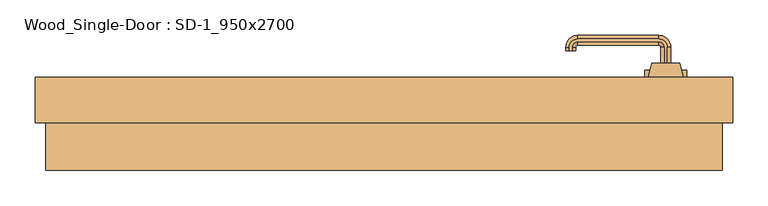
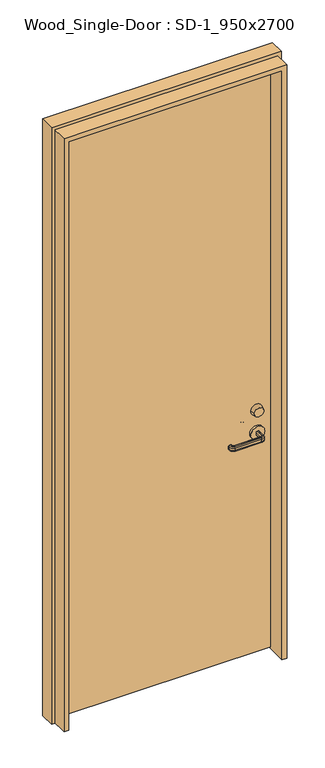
"""IFC4 building model written with IfcOpenShell, lengths in millimetres: door geometry, Wood_Single-Door : SD-1_950x2700."""

from ifc_helpers import new_model, si_unit, point, frame, frame_2d, origin, place, context, project, spatial, polyline, circle_curve, ellipse_curve, trimmed, segment, composite_curve, outline, extrude, source, transform, mapped, element, save
from ifc_brep_helpers import plane_surface, cylinder_surface, revolved_surface, advanced_brep


def wood_single_door_sd_1_950x2700_4097bdad(model_context):
    return source(origin(), model_context, "Body", "SolidModel", [
        advanced_brep(
        [(420.0, 86.0, 1106.3812925), (380.0, 86.0, 1106.3812925), (425.0, 66.0, 1106.3812925), (375.0, 66.0, 1106.3812925)],
        [
            (0, 1, circle_curve(frame((400.0, 86.0, 1106.3812925), z_axis=(0.0, 1.0, 0.0), x_axis=(-1.0, 0.0, 0.0)), 20.0)),
            (1, 0, circle_curve(frame((400.0, 86.0, 1106.3812925), z_axis=(0.0, 1.0, 0.0), x_axis=(1.0, 0.0, 0.0)), 20.0)),
            (2, 3, circle_curve(frame((400.0, 66.0, 1106.3812925), z_axis=(0.0, -1.0, 0.0), x_axis=(1.0, 0.0, 0.0)), 25.0)),
            (3, 2, circle_curve(frame((400.0, 66.0, 1106.3812925), z_axis=(0.0, -1.0, 0.0), x_axis=(-1.0, 0.0, 0.0)), 25.0)),
            (3, 1),
            (0, 2),
        ],
        [
            plane_surface(frame((400.0, 86.0, 1106.3812925), z_axis=(0.0, 1.0, 0.0), x_axis=(0.0, 0.0, 1.0))),
            plane_surface(frame((400.0, 66.0, 1106.3812925), z_axis=(0.0, -1.0, 0.0), x_axis=(0.0, 0.0, 1.0))),
            revolved_surface(polyline([(380.0, 86.0, 1106.3812925), (375.0, 66.0, 1106.3812925)]), (400.0, 166.0, 1106.3812925), (0.0, -1.0, 0.0)),
            revolved_surface(polyline([(420.0, 86.0, 1106.3812925), (425.0, 66.0, 1106.3812925)]), (400.0, 166.0, 1106.3812925), (0.0, -1.0, 0.0)),
        ],
        [
            (0, [[1, 2]]),
            (1, [[3, 4]]),
            (2, [[5, -1, 6, -4]]),
            (3, [[-6, -2, -5, -3]]),
        ],
    ),
        advanced_brep(
        [(420.0, 1.0, 1106.3812925), (380.0, 1.0, 1106.3812925), (425.0, 21.0, 1106.3812925), (375.0, 21.0, 1106.3812925)],
        [
            (0, 1, circle_curve(frame((400.0, 1.0, 1106.3812925), z_axis=(0.0, -1.0, 0.0), x_axis=(-1.0, 0.0, 0.0)), 20.0)),
            (1, 0, circle_curve(frame((400.0, 1.0, 1106.3812925), z_axis=(0.0, -1.0, 0.0), x_axis=(1.0, 0.0, 0.0)), 20.0)),
            (2, 3, circle_curve(frame((400.0, 21.0, 1106.3812925), z_axis=(0.0, 1.0, 0.0), x_axis=(1.0, 0.0, 0.0)), 25.0)),
            (3, 2, circle_curve(frame((400.0, 21.0, 1106.3812925), z_axis=(0.0, 1.0, 0.0), x_axis=(-1.0, 0.0, 0.0)), 25.0)),
            (2, 0),
            (1, 3),
        ],
        [
            plane_surface(frame((400.0, 1.0, 1106.3812925), z_axis=(0.0, -1.0, 0.0), x_axis=(0.0, 0.0, -1.0))),
            plane_surface(frame((400.0, 21.0, 1106.3812925), z_axis=(0.0, 1.0, 0.0), x_axis=(0.0, 0.0, -1.0))),
            revolved_surface(polyline([(420.0, 1.0, 1106.3812925), (425.0, 21.0, 1106.3812925)]), (400.0, -79.0, 1106.3812925), (0.0, 1.0, 0.0)),
            revolved_surface(polyline([(380.0, 1.0, 1106.3812925), (375.0, 21.0, 1106.3812925)]), (400.0, -79.0, 1106.3812925), (0.0, 1.0, 0.0)),
        ],
        [
            (0, [[1, 2]]),
            (1, [[3, 4]]),
            (2, [[5, -2, 6, -3]]),
            (3, [[-6, -1, -5, -4]]),
        ],
    ),
        advanced_brep(
        [(402.0, 76.0, 1015.0), (398.0, 76.0, 1015.0), (393.0, 76.0, 1010.0), (393.0, 76.0, 1000.0477623), (398.0, 76.0, 995.0477623), (402.0, 76.0, 995.0477623), (407.0, 76.0, 1000.0477623), (407.0, 76.0, 1010.0), (407.0, 108.5, 1010.0), (402.0, 108.5, 1015.0), (407.0, 108.5, 1000.0477623), (402.0, 108.5, 995.0477623), (398.0, 108.5, 995.0477623), (390.0, 116.5, 995.0477623), (275.0, 116.5, 995.0477623), (267.0, 108.5, 995.0477623), (267.0, 103.5, 995.0477623), (263.0, 103.5, 995.0477623), (263.0, 108.5, 995.0477623), (275.0, 120.5, 995.0477623), (390.0, 120.5, 995.0477623), (393.0, 108.5, 1000.0477623), (393.0, 108.5, 1010.0), (398.0, 108.5, 1015.0), (390.0, 120.5, 1015.0), (275.0, 120.5, 1015.0), (263.0, 108.5, 1015.0), (263.0, 103.5, 1015.0), (267.0, 103.5, 1015.0), (267.0, 108.5, 1015.0), (275.0, 116.5, 1015.0), (390.0, 116.5, 1015.0), (390.0, 125.5, 1010.0), (390.0, 125.5, 1000.0477623), (390.0, 111.5, 1000.0477623), (390.0, 111.5, 1010.0), (275.0, 125.5, 1010.0), (275.0, 125.5, 1000.0477623), (275.0, 111.5, 1000.0477623), (275.0, 111.5, 1010.0), (258.0, 108.5, 1010.0), (258.0, 108.5, 1000.0477623), (272.0, 108.5, 1000.0477623), (272.0, 108.5, 1010.0), (258.0, 103.5, 1010.0), (258.0, 103.5, 1000.0477623), (272.0, 103.5, 1000.0477623), (272.0, 103.5, 1010.0)],
        [
            (0, 1),
            (1, 2, circle_curve(frame((398.0, 76.0, 1010.0), z_axis=(0.0, -1.0, 0.0), x_axis=(1.0, 0.0, 0.0)), 5.0)),
            (2, 3),
            (3, 4, circle_curve(frame((398.0, 76.0, 1000.0477623), z_axis=(0.0, -1.0, 0.0), x_axis=(1.0, 0.0, 0.0)), 5.0)),
            (4, 5),
            (5, 6, circle_curve(frame((402.0, 76.0, 1000.0477623), z_axis=(0.0, -1.0, 0.0), x_axis=(1.0, 0.0, 0.0)), 5.0)),
            (6, 7),
            (7, 0, circle_curve(frame((402.0, 76.0, 1010.0), z_axis=(0.0, -1.0, 0.0), x_axis=(1.0, 0.0, 0.0)), 5.0)),
            (7, 8),
            (8, 9, circle_curve(frame((402.0, 108.5, 1010.0), z_axis=(0.0, -1.0, 0.0), x_axis=(1.0, 0.0, 0.0)), 5.0)),
            (9, 0),
            (6, 10),
            (10, 8),
            (5, 11),
            (11, 10, circle_curve(frame((402.0, 108.5, 1000.0477623), z_axis=(0.0, -1.0, 0.0), x_axis=(1.0, 0.0, 0.0)), 5.0)),
            (4, 12),
            (12, 13, circle_curve(frame((390.0, 108.5, 995.0477623), z_axis=(0.0, 0.0, 1.0), x_axis=(1.0, 0.0, 0.0)), 8.0)),
            (13, 14),
            (14, 15, circle_curve(frame((275.0, 108.5, 995.0477623), z_axis=(0.0, 0.0, 1.0), x_axis=(0.0, 1.0, 0.0)), 8.0)),
            (15, 16),
            (16, 17),
            (17, 18),
            (18, 19, circle_curve(frame((275.0, 108.5, 995.0477623), z_axis=(0.0, 0.0, -1.0), x_axis=(0.0, 1.0, 0.0)), 12.0)),
            (19, 20),
            (20, 11, circle_curve(frame((390.0, 108.5, 995.0477623), z_axis=(0.0, 0.0, -1.0), x_axis=(1.0, 0.0, 0.0)), 12.0)),
            (3, 21),
            (21, 12, circle_curve(frame((398.0, 108.5, 1000.0477623), z_axis=(0.0, -1.0, 0.0), x_axis=(1.0, 0.0, 0.0)), 5.0)),
            (2, 22),
            (22, 21),
            (1, 23),
            (23, 22, circle_curve(frame((398.0, 108.5, 1010.0), z_axis=(0.0, -1.0, 0.0), x_axis=(1.0, 0.0, 0.0)), 5.0)),
            (9, 24, circle_curve(frame((390.0, 108.5, 1015.0), z_axis=(0.0, 0.0, 1.0), x_axis=(1.0, 0.0, 0.0)), 12.0)),
            (24, 25),
            (25, 26, circle_curve(frame((275.0, 108.5, 1015.0), z_axis=(0.0, 0.0, 1.0), x_axis=(0.0, 1.0, 0.0)), 12.0)),
            (26, 27),
            (27, 28),
            (28, 29),
            (29, 30, circle_curve(frame((275.0, 108.5, 1015.0), z_axis=(0.0, 0.0, -1.0), x_axis=(0.0, 1.0, 0.0)), 8.0)),
            (30, 31),
            (31, 23, circle_curve(frame((390.0, 108.5, 1015.0), z_axis=(0.0, 0.0, -1.0), x_axis=(1.0, 0.0, 0.0)), 8.0)),
            (32, 24, circle_curve(frame((390.0, 120.5, 1010.0), z_axis=(1.0, 0.0, 0.0), x_axis=(0.0, 1.0, 0.0)), 5.0)),
            (8, 32, circle_curve(frame((390.0, 108.5, 1010.0), z_axis=(0.0, 0.0, 1.0), x_axis=(1.0, 0.0, 0.0)), 17.0)),
            (33, 32),
            (10, 33, circle_curve(frame((390.0, 108.5, 1000.0477623), z_axis=(0.0, 0.0, 1.0), x_axis=(1.0, 0.0, 0.0)), 17.0)),
            (20, 33, circle_curve(frame((390.0, 120.5, 1000.0477623), z_axis=(1.0, 0.0, 0.0), x_axis=(0.0, 1.0, 0.0)), 5.0)),
            (34, 13, circle_curve(frame((390.0, 116.5, 1000.0477623), z_axis=(1.0, 0.0, 0.0), x_axis=(0.0, 1.0, 0.0)), 5.0)),
            (21, 34, circle_curve(frame((390.0, 108.5, 1000.0477623), z_axis=(0.0, 0.0, 1.0), x_axis=(1.0, 0.0, 0.0)), 3.0)),
            (35, 34),
            (22, 35, circle_curve(frame((390.0, 108.5, 1010.0), z_axis=(0.0, 0.0, 1.0), x_axis=(1.0, 0.0, 0.0)), 3.0)),
            (31, 35, circle_curve(frame((390.0, 116.5, 1010.0), z_axis=(1.0, 0.0, 0.0), x_axis=(0.0, 1.0, 0.0)), 5.0)),
            (32, 36),
            (36, 25, circle_curve(frame((275.0, 120.5, 1010.0), z_axis=(1.0, 0.0, 0.0), x_axis=(0.0, 1.0, 0.0)), 5.0)),
            (33, 37),
            (37, 36),
            (19, 37, circle_curve(frame((275.0, 120.5, 1000.0477623), z_axis=(1.0, 0.0, 0.0), x_axis=(0.0, 1.0, 0.0)), 5.0)),
            (34, 38),
            (38, 14, circle_curve(frame((275.0, 116.5, 1000.0477623), z_axis=(1.0, 0.0, 0.0), x_axis=(0.0, 1.0, 0.0)), 5.0)),
            (35, 39),
            (39, 38),
            (30, 39, circle_curve(frame((275.0, 116.5, 1010.0), z_axis=(1.0, 0.0, 0.0), x_axis=(0.0, 1.0, 0.0)), 5.0)),
            (40, 26, circle_curve(frame((263.0, 108.5, 1010.0), z_axis=(0.0, 1.0, 0.0), x_axis=(-1.0, 0.0, 0.0)), 5.0)),
            (36, 40, circle_curve(frame((275.0, 108.5, 1010.0), z_axis=(0.0, 0.0, 1.0), x_axis=(0.0, 1.0, 0.0)), 17.0)),
            (41, 40),
            (37, 41, circle_curve(frame((275.0, 108.5, 1000.0477623), z_axis=(0.0, 0.0, 1.0), x_axis=(0.0, 1.0, 0.0)), 17.0)),
            (18, 41, circle_curve(frame((263.0, 108.5, 1000.0477623), z_axis=(0.0, 1.0, 0.0), x_axis=(-1.0, 0.0, 0.0)), 5.0)),
            (42, 15, circle_curve(frame((267.0, 108.5, 1000.0477623), z_axis=(0.0, 1.0, 0.0), x_axis=(-1.0, 0.0, 0.0)), 5.0)),
            (38, 42, circle_curve(frame((275.0, 108.5, 1000.0477623), z_axis=(0.0, 0.0, 1.0), x_axis=(0.0, 1.0, 0.0)), 3.0)),
            (43, 42),
            (39, 43, circle_curve(frame((275.0, 108.5, 1010.0), z_axis=(0.0, 0.0, 1.0), x_axis=(0.0, 1.0, 0.0)), 3.0)),
            (29, 43, circle_curve(frame((267.0, 108.5, 1010.0), z_axis=(0.0, 1.0, 0.0), x_axis=(-1.0, 0.0, 0.0)), 5.0)),
            (27, 44, circle_curve(frame((263.0, 103.5, 1010.0), z_axis=(0.0, -1.0, 0.0), x_axis=(-1.0, 0.0, 0.0)), 5.0)),
            (44, 45),
            (45, 17, circle_curve(frame((263.0, 103.5, 1000.0477623), z_axis=(0.0, -1.0, 0.0), x_axis=(-1.0, 0.0, 0.0)), 5.0)),
            (16, 46, circle_curve(frame((267.0, 103.5, 1000.0477623), z_axis=(0.0, -1.0, 0.0), x_axis=(-1.0, 0.0, 0.0)), 5.0)),
            (46, 47),
            (47, 28, circle_curve(frame((267.0, 103.5, 1010.0), z_axis=(0.0, -1.0, 0.0), x_axis=(-1.0, 0.0, 0.0)), 5.0)),
            (40, 44),
            (41, 45),
            (42, 46),
            (43, 47),
        ],
        [
            plane_surface(frame((410.198039, 76.0, 1005.0), z_axis=(0.0, -1.0, 0.0), x_axis=(0.0, 0.0, 1.0))),
            cylinder_surface(frame((402.0, 76.0, 1010.0), z_axis=(0.0, -1.0, 0.0), x_axis=(1.0, 0.0, 0.0)), 5.0),
            plane_surface(frame((407.0, 76.0, 1010.0), z_axis=(1.0, 0.0, 0.0), x_axis=(0.0, 1.0, 0.0))),
            cylinder_surface(frame((402.0, 76.0, 1000.0477623), z_axis=(0.0, -1.0, 0.0), x_axis=(1.0, 0.0, 0.0)), 5.0),
            plane_surface(frame((402.0, 76.0, 995.0477623), z_axis=(0.0, 0.0, -1.0), x_axis=(0.0, 1.0, 0.0))),
            cylinder_surface(frame((398.0, 76.0, 1000.0477623), z_axis=(0.0, -1.0, 0.0), x_axis=(1.0, 0.0, 0.0)), 5.0),
            plane_surface(frame((393.0, 76.0, 1000.0477623), z_axis=(-1.0, 0.0, 0.0), x_axis=(0.0, 1.0, 0.0))),
            cylinder_surface(frame((398.0, 76.0, 1010.0), z_axis=(0.0, -1.0, 0.0), x_axis=(1.0, 0.0, 0.0)), 5.0),
            plane_surface(frame((398.0, 76.0, 1015.0), z_axis=(0.0, 0.0, 1.0), x_axis=(0.0, 1.0, 0.0))),
            revolved_surface(trimmed(ellipse_curve(frame((402.0, 108.5, 1010.0), z_axis=(0.0, 1.0, 0.0), x_axis=(1.0, 0.0, 0.0)), 5.0, 5.0), [point((402.0, 108.5, 1015.0))], [point((407.0, 108.5, 1010.0))], True, "CARTESIAN"), (390.0, 108.5, 1005.0), (0.0, 0.0, -1.0)),
            cylinder_surface(frame((390.0, 108.5, 1005.0), z_axis=(0.0, 0.0, -1.0), x_axis=(1.0, 0.0, 0.0)), 17.0),
            revolved_surface(trimmed(ellipse_curve(frame((402.0, 108.5, 1000.0477623), z_axis=(0.0, 1.0, 0.0), x_axis=(1.0, 0.0, 0.0)), 5.0, 5.0), [point((407.0, 108.5, 1000.0477623))], [point((402.0, 108.5, 995.0477623))], True, "CARTESIAN"), (390.0, 108.5, 1005.0), (0.0, 0.0, -1.0)),
            revolved_surface(trimmed(ellipse_curve(frame((398.0, 108.5, 1000.0477623), z_axis=(0.0, 1.0, 0.0), x_axis=(1.0, 0.0, 0.0)), 5.0, 5.0), [point((398.0, 108.5, 995.0477623))], [point((393.0, 108.5, 1000.0477623))], True, "CARTESIAN"), (390.0, 108.5, 1005.0), (0.0, 0.0, -1.0)),
            revolved_surface(polyline([(393.0, 108.5, 1000.0477623), (393.0, 108.5, 1010.0)]), (390.0, 108.5, 1005.0), (0.0, 0.0, -1.0)),
            revolved_surface(trimmed(ellipse_curve(frame((398.0, 108.5, 1010.0), z_axis=(0.0, 1.0, 0.0), x_axis=(1.0, 0.0, 0.0)), 5.0, 5.0), [point((393.0, 108.5, 1010.0))], [point((398.0, 108.5, 1015.0))], True, "CARTESIAN"), (390.0, 108.5, 1005.0), (0.0, 0.0, -1.0)),
            cylinder_surface(frame((390.0, 120.5, 1010.0), z_axis=(1.0, 0.0, 0.0), x_axis=(0.0, 1.0, 0.0)), 5.0),
            plane_surface(frame((390.0, 125.5, 1010.0), z_axis=(0.0, 1.0, 0.0), x_axis=(-1.0, 0.0, 0.0))),
            cylinder_surface(frame((390.0, 120.5, 1000.0477623), z_axis=(1.0, 0.0, 0.0), x_axis=(0.0, 1.0, 0.0)), 5.0),
            cylinder_surface(frame((390.0, 116.5, 1000.0477623), z_axis=(1.0, 0.0, 0.0), x_axis=(0.0, 1.0, 0.0)), 5.0),
            plane_surface(frame((390.0, 111.5, 1000.0477623), z_axis=(0.0, -1.0, 0.0), x_axis=(-1.0, 0.0, 0.0))),
            cylinder_surface(frame((390.0, 116.5, 1010.0), z_axis=(1.0, 0.0, 0.0), x_axis=(0.0, 1.0, 0.0)), 5.0),
            revolved_surface(trimmed(ellipse_curve(frame((275.0, 120.5, 1010.0), z_axis=(-1.0, 0.0, 0.0), x_axis=(0.0, 1.0, 0.0)), 5.0, 5.0), [point((275.0, 120.5, 1015.0))], [point((275.0, 125.5, 1010.0))], True, "CARTESIAN"), (275.0, 108.5, 1005.0), (0.0, 0.0, -1.0)),
            cylinder_surface(frame((275.0, 108.5, 1005.0), z_axis=(0.0, 0.0, -1.0), x_axis=(0.0, 1.0, 0.0)), 17.0),
            revolved_surface(trimmed(ellipse_curve(frame((275.0, 120.5, 1000.0477623), z_axis=(-1.0, 0.0, 0.0), x_axis=(0.0, 1.0, 0.0)), 5.0, 5.0), [point((275.0, 125.5, 1000.0477623))], [point((275.0, 120.5, 995.0477623))], True, "CARTESIAN"), (275.0, 108.5, 1005.0), (0.0, 0.0, -1.0)),
            revolved_surface(trimmed(ellipse_curve(frame((275.0, 116.5, 1000.0477623), z_axis=(-1.0, 0.0, 0.0), x_axis=(0.0, 1.0, 0.0)), 5.0, 5.0), [point((275.0, 116.5, 995.0477623))], [point((275.0, 111.5, 1000.0477623))], True, "CARTESIAN"), (275.0, 108.5, 1005.0), (0.0, 0.0, -1.0)),
            revolved_surface(polyline([(275.0, 111.5, 1000.0477623), (275.0, 111.5, 1010.0)]), (275.0, 108.5, 1005.0), (0.0, 0.0, -1.0)),
            revolved_surface(trimmed(ellipse_curve(frame((275.0, 116.5, 1010.0), z_axis=(-1.0, 0.0, 0.0), x_axis=(0.0, 1.0, 0.0)), 5.0, 5.0), [point((275.0, 111.5, 1010.0))], [point((275.0, 116.5, 1015.0))], True, "CARTESIAN"), (275.0, 108.5, 1005.0), (0.0, 0.0, -1.0)),
            plane_surface(frame((275.198039, 103.5, 1005.0), z_axis=(0.0, -1.0, 0.0), x_axis=(0.0, 0.0, -1.0))),
            cylinder_surface(frame((263.0, 108.5, 1010.0), z_axis=(0.0, 1.0, 0.0), x_axis=(-1.0, 0.0, 0.0)), 5.0),
            plane_surface(frame((258.0, 108.5, 1010.0), z_axis=(-1.0, 0.0, 0.0), x_axis=(0.0, -1.0, 0.0))),
            cylinder_surface(frame((263.0, 108.5, 1000.0477623), z_axis=(0.0, 1.0, 0.0), x_axis=(-1.0, 0.0, 0.0)), 5.0),
            cylinder_surface(frame((267.0, 108.5, 1000.0477623), z_axis=(0.0, 1.0, 0.0), x_axis=(-1.0, 0.0, 0.0)), 5.0),
            plane_surface(frame((272.0, 108.5, 1000.0477623), z_axis=(1.0, 0.0, 0.0), x_axis=(0.0, -1.0, 0.0))),
            cylinder_surface(frame((267.0, 108.5, 1010.0), z_axis=(0.0, 1.0, 0.0), x_axis=(-1.0, 0.0, 0.0)), 5.0),
        ],
        [
            (0, [[1, 2, 3, 4, 5, 6, 7, 8]]),
            (1, [[9, 10, 11, -8]]),
            (2, [[12, 13, -9, -7]]),
            (3, [[14, 15, -12, -6]]),
            (4, [[16, 17, 18, 19, 20, 21, 22, 23, 24, 25, -14, -5]]),
            (5, [[26, 27, -16, -4]]),
            (6, [[28, 29, -26, -3]]),
            (7, [[30, 31, -28, -2]]),
            (8, [[-11, 32, 33, 34, 35, 36, 37, 38, 39, 40, -30, -1]]),
            (9, [[41, -32, -10, 42]]),
            (10, [[43, -42, -13, 44]]),
            (11, [[45, -44, -15, -25]]),
            (12, [[46, -17, -27, 47]]),
            (13, [[48, -47, -29, 49]]),
            (14, [[50, -49, -31, -40]]),
            (15, [[51, 52, -33, -41]]),
            (16, [[53, 54, -51, -43]]),
            (17, [[-24, 55, -53, -45]]),
            (18, [[56, 57, -18, -46]]),
            (19, [[58, 59, -56, -48]]),
            (20, [[-39, 60, -58, -50]]),
            (21, [[61, -34, -52, 62]]),
            (22, [[63, -62, -54, 64]]),
            (23, [[65, -64, -55, -23]]),
            (24, [[66, -19, -57, 67]]),
            (25, [[68, -67, -59, 69]]),
            (26, [[70, -69, -60, -38]]),
            (27, [[71, 72, 73, -21, 74, 75, 76, -36]]),
            (28, [[77, -71, -35, -61]]),
            (29, [[78, -72, -77, -63]]),
            (30, [[-22, -73, -78, -65]]),
            (31, [[79, -74, -20, -66]]),
            (32, [[80, -75, -79, -68]]),
            (33, [[-37, -76, -80, -70]]),
        ],
    ),
        advanced_brep(
        [(407.0, 11.0, 1000.0), (407.0, -21.5, 1000.0), (402.0, -21.5, 995.0), (402.0, 11.0, 995.0), (398.0, 11.0, 995.0), (393.0, 11.0, 1000.0), (393.0, 11.0, 1010.0), (398.0, 11.0, 1015.0), (402.0, 11.0, 1015.0), (407.0, 11.0, 1010.0), (390.0, -33.5, 995.0), (275.0, -33.5, 995.0), (263.0, -21.5, 995.0), (263.0, -16.5, 995.0), (267.0, -16.5, 995.0), (267.0, -21.5, 995.0), (275.0, -29.5, 995.0), (390.0, -29.5, 995.0), (398.0, -21.5, 995.0), (407.0, -21.5, 1010.0), (402.0, -21.5, 1015.0), (398.0, -21.5, 1015.0), (390.0, -29.5, 1015.0), (275.0, -29.5, 1015.0), (267.0, -21.5, 1015.0), (267.0, -16.5, 1015.0), (263.0, -16.5, 1015.0), (263.0, -21.5, 1015.0), (275.0, -33.5, 1015.0), (390.0, -33.5, 1015.0), (393.0, -21.5, 1010.0), (393.0, -21.5, 1000.0), (390.0, -38.5, 1000.0), (390.0, -38.5, 1010.0), (390.0, -24.5, 1010.0), (390.0, -24.5, 1000.0), (275.0, -38.5, 1000.0), (275.0, -38.5, 1010.0), (275.0, -24.5, 1010.0), (275.0, -24.5, 1000.0), (258.0, -21.5, 1000.0), (258.0, -21.5, 1010.0), (272.0, -21.5, 1010.0), (272.0, -21.5, 1000.0), (258.0, -16.5, 1000.0), (258.0, -16.5, 1010.0), (272.0, -16.5, 1010.0), (272.0, -16.5, 1000.0)],
        [
            (0, 1),
            (1, 2, circle_curve(frame((402.0, -21.5, 1000.0), z_axis=(0.0, 1.0, 0.0), x_axis=(-1.0, 0.0, 0.0)), 5.0)),
            (2, 3),
            (3, 0, circle_curve(frame((402.0, 11.0, 1000.0), z_axis=(0.0, -1.0, 0.0), x_axis=(-1.0, 0.0, 0.0)), 5.0)),
            (4, 5, circle_curve(frame((398.0, 11.0, 1000.0), z_axis=(0.0, 1.0, 0.0), x_axis=(-1.0, 0.0, 0.0)), 5.0)),
            (5, 6),
            (6, 7, circle_curve(frame((398.0, 11.0, 1010.0), z_axis=(0.0, 1.0, 0.0), x_axis=(-1.0, 0.0, 0.0)), 5.0)),
            (7, 8),
            (8, 9, circle_curve(frame((402.0, 11.0, 1010.0), z_axis=(0.0, 1.0, 0.0), x_axis=(-1.0, 0.0, 0.0)), 5.0)),
            (9, 0),
            (3, 4),
            (2, 10, circle_curve(frame((390.0, -21.5, 995.0), z_axis=(0.0, 0.0, -1.0), x_axis=(1.0, 0.0, 0.0)), 12.0)),
            (10, 11),
            (11, 12, circle_curve(frame((275.0, -21.5, 995.0), z_axis=(0.0, 0.0, -1.0), x_axis=(0.0, -1.0, 0.0)), 12.0)),
            (12, 13),
            (13, 14),
            (14, 15),
            (15, 16, circle_curve(frame((275.0, -21.5, 995.0), z_axis=(0.0, 0.0, 1.0), x_axis=(0.0, -1.0, 0.0)), 8.0)),
            (16, 17),
            (17, 18, circle_curve(frame((390.0, -21.5, 995.0), z_axis=(0.0, 0.0, 1.0), x_axis=(1.0, 0.0, 0.0)), 8.0)),
            (18, 4),
            (9, 19),
            (19, 1),
            (8, 20),
            (20, 19, circle_curve(frame((402.0, -21.5, 1010.0), z_axis=(0.0, 1.0, 0.0), x_axis=(-1.0, 0.0, 0.0)), 5.0)),
            (7, 21),
            (21, 22, circle_curve(frame((390.0, -21.5, 1015.0), z_axis=(0.0, 0.0, -1.0), x_axis=(1.0, 0.0, 0.0)), 8.0)),
            (22, 23),
            (23, 24, circle_curve(frame((275.0, -21.5, 1015.0), z_axis=(0.0, 0.0, -1.0), x_axis=(0.0, -1.0, 0.0)), 8.0)),
            (24, 25),
            (25, 26),
            (26, 27),
            (27, 28, circle_curve(frame((275.0, -21.5, 1015.0), z_axis=(0.0, 0.0, 1.0), x_axis=(0.0, -1.0, 0.0)), 12.0)),
            (28, 29),
            (29, 20, circle_curve(frame((390.0, -21.5, 1015.0), z_axis=(0.0, 0.0, 1.0), x_axis=(1.0, 0.0, 0.0)), 12.0)),
            (6, 30),
            (30, 21, circle_curve(frame((398.0, -21.5, 1010.0), z_axis=(0.0, 1.0, 0.0), x_axis=(-1.0, 0.0, 0.0)), 5.0)),
            (5, 31),
            (31, 30),
            (18, 31, circle_curve(frame((398.0, -21.5, 1000.0), z_axis=(0.0, 1.0, 0.0), x_axis=(-1.0, 0.0, 0.0)), 5.0)),
            (32, 10, circle_curve(frame((390.0, -33.5, 1000.0), z_axis=(1.0, 0.0, 0.0), x_axis=(0.0, 1.0, 0.0)), 5.0)),
            (1, 32, circle_curve(frame((390.0, -21.5, 1000.0), z_axis=(0.0, 0.0, -1.0), x_axis=(1.0, 0.0, 0.0)), 17.0)),
            (33, 32),
            (19, 33, circle_curve(frame((390.0, -21.5, 1010.0), z_axis=(0.0, 0.0, -1.0), x_axis=(1.0, 0.0, 0.0)), 17.0)),
            (29, 33, circle_curve(frame((390.0, -33.5, 1010.0), z_axis=(1.0, 0.0, 0.0), x_axis=(0.0, 1.0, 0.0)), 5.0)),
            (34, 22, circle_curve(frame((390.0, -29.5, 1010.0), z_axis=(1.0, 0.0, 0.0), x_axis=(0.0, 1.0, 0.0)), 5.0)),
            (30, 34, circle_curve(frame((390.0, -21.5, 1010.0), z_axis=(0.0, 0.0, -1.0), x_axis=(1.0, 0.0, 0.0)), 3.0)),
            (35, 34),
            (31, 35, circle_curve(frame((390.0, -21.5, 1000.0), z_axis=(0.0, 0.0, -1.0), x_axis=(1.0, 0.0, 0.0)), 3.0)),
            (17, 35, circle_curve(frame((390.0, -29.5, 1000.0), z_axis=(1.0, 0.0, 0.0), x_axis=(0.0, 1.0, 0.0)), 5.0)),
            (32, 36),
            (36, 11, circle_curve(frame((275.0, -33.5, 1000.0), z_axis=(1.0, 0.0, 0.0), x_axis=(0.0, 1.0, 0.0)), 5.0)),
            (33, 37),
            (37, 36),
            (28, 37, circle_curve(frame((275.0, -33.5, 1010.0), z_axis=(1.0, 0.0, 0.0), x_axis=(0.0, 1.0, 0.0)), 5.0)),
            (34, 38),
            (38, 23, circle_curve(frame((275.0, -29.5, 1010.0), z_axis=(1.0, 0.0, 0.0), x_axis=(0.0, 1.0, 0.0)), 5.0)),
            (35, 39),
            (39, 38),
            (16, 39, circle_curve(frame((275.0, -29.5, 1000.0), z_axis=(1.0, 0.0, 0.0), x_axis=(0.0, 1.0, 0.0)), 5.0)),
            (40, 12, circle_curve(frame((263.0, -21.5, 1000.0), z_axis=(0.0, -1.0, 0.0), x_axis=(1.0, 0.0, 0.0)), 5.0)),
            (36, 40, circle_curve(frame((275.0, -21.5, 1000.0), z_axis=(0.0, 0.0, -1.0), x_axis=(0.0, -1.0, 0.0)), 17.0)),
            (41, 40),
            (37, 41, circle_curve(frame((275.0, -21.5, 1010.0), z_axis=(0.0, 0.0, -1.0), x_axis=(0.0, -1.0, 0.0)), 17.0)),
            (27, 41, circle_curve(frame((263.0, -21.5, 1010.0), z_axis=(0.0, -1.0, 0.0), x_axis=(1.0, 0.0, 0.0)), 5.0)),
            (42, 24, circle_curve(frame((267.0, -21.5, 1010.0), z_axis=(0.0, -1.0, 0.0), x_axis=(1.0, 0.0, 0.0)), 5.0)),
            (38, 42, circle_curve(frame((275.0, -21.5, 1010.0), z_axis=(0.0, 0.0, -1.0), x_axis=(0.0, -1.0, 0.0)), 3.0)),
            (43, 42),
            (39, 43, circle_curve(frame((275.0, -21.5, 1000.0), z_axis=(0.0, 0.0, -1.0), x_axis=(0.0, -1.0, 0.0)), 3.0)),
            (15, 43, circle_curve(frame((267.0, -21.5, 1000.0), z_axis=(0.0, -1.0, 0.0), x_axis=(1.0, 0.0, 0.0)), 5.0)),
            (13, 44, circle_curve(frame((263.0, -16.5, 1000.0), z_axis=(0.0, 1.0, 0.0), x_axis=(1.0, 0.0, 0.0)), 5.0)),
            (44, 45),
            (45, 26, circle_curve(frame((263.0, -16.5, 1010.0), z_axis=(0.0, 1.0, 0.0), x_axis=(1.0, 0.0, 0.0)), 5.0)),
            (25, 46, circle_curve(frame((267.0, -16.5, 1010.0), z_axis=(0.0, 1.0, 0.0), x_axis=(1.0, 0.0, 0.0)), 5.0)),
            (46, 47),
            (47, 14, circle_curve(frame((267.0, -16.5, 1000.0), z_axis=(0.0, 1.0, 0.0), x_axis=(1.0, 0.0, 0.0)), 5.0)),
            (40, 44),
            (41, 45),
            (42, 46),
            (43, 47),
        ],
        [
            cylinder_surface(frame((402.0, 11.0, 1000.0), z_axis=(0.0, 1.0, 0.0), x_axis=(-1.0, 0.0, 0.0)), 5.0),
            plane_surface(frame((410.198039, 11.0, 1005.0), z_axis=(0.0, 1.0, 0.0), x_axis=(0.0, 0.0, -1.0))),
            plane_surface(frame((398.0, 11.0, 995.0), z_axis=(0.0, 0.0, -1.0), x_axis=(0.0, -1.0, 0.0))),
            plane_surface(frame((407.0, 11.0, 1000.0), z_axis=(1.0, 0.0, 0.0), x_axis=(0.0, -1.0, 0.0))),
            cylinder_surface(frame((402.0, 11.0, 1010.0), z_axis=(0.0, 1.0, 0.0), x_axis=(-1.0, 0.0, 0.0)), 5.0),
            plane_surface(frame((402.0, 11.0, 1015.0), z_axis=(0.0, 0.0, 1.0), x_axis=(0.0, -1.0, 0.0))),
            cylinder_surface(frame((398.0, 11.0, 1010.0), z_axis=(0.0, 1.0, 0.0), x_axis=(-1.0, 0.0, 0.0)), 5.0),
            plane_surface(frame((393.0, 11.0, 1010.0), z_axis=(-1.0, 0.0, 0.0), x_axis=(0.0, -1.0, 0.0))),
            cylinder_surface(frame((398.0, 11.0, 1000.0), z_axis=(0.0, 1.0, 0.0), x_axis=(-1.0, 0.0, 0.0)), 5.0),
            revolved_surface(trimmed(ellipse_curve(frame((402.0, -21.5, 1000.0), z_axis=(0.0, -1.0, 0.0), x_axis=(-1.0, 0.0, 0.0)), 5.0, 5.0), [point((402.0, -21.5, 995.0))], [point((407.0, -21.5, 1000.0))], True, "CARTESIAN"), (390.0, -21.5, 1005.0), (0.0, 0.0, 1.0)),
            cylinder_surface(frame((390.0, -21.5, 1005.0), z_axis=(0.0, 0.0, 1.0), x_axis=(1.0, 0.0, 0.0)), 17.0),
            revolved_surface(trimmed(ellipse_curve(frame((402.0, -21.5, 1010.0), z_axis=(0.0, -1.0, 0.0), x_axis=(-1.0, 0.0, 0.0)), 5.0, 5.0), [point((407.0, -21.5, 1010.0))], [point((402.0, -21.5, 1015.0))], True, "CARTESIAN"), (390.0, -21.5, 1005.0), (0.0, 0.0, 1.0)),
            revolved_surface(trimmed(ellipse_curve(frame((398.0, -21.5, 1010.0), z_axis=(0.0, -1.0, 0.0), x_axis=(-1.0, 0.0, 0.0)), 5.0, 5.0), [point((398.0, -21.5, 1015.0))], [point((393.0, -21.5, 1010.0))], True, "CARTESIAN"), (390.0, -21.5, 1005.0), (0.0, 0.0, 1.0)),
            revolved_surface(polyline([(393.0, -21.5, 1010.0), (393.0, -21.5, 1000.0)]), (390.0, -21.5, 1005.0), (0.0, 0.0, 1.0)),
            revolved_surface(trimmed(ellipse_curve(frame((398.0, -21.5, 1000.0), z_axis=(0.0, -1.0, 0.0), x_axis=(-1.0, 0.0, 0.0)), 5.0, 5.0), [point((393.0, -21.5, 1000.0))], [point((398.0, -21.5, 995.0))], True, "CARTESIAN"), (390.0, -21.5, 1005.0), (0.0, 0.0, 1.0)),
            cylinder_surface(frame((390.0, -33.5, 1000.0), z_axis=(1.0, 0.0, 0.0), x_axis=(0.0, 1.0, 0.0)), 5.0),
            plane_surface(frame((390.0, -38.5, 1000.0), z_axis=(0.0, -1.0, 0.0), x_axis=(-1.0, 0.0, 0.0))),
            cylinder_surface(frame((390.0, -33.5, 1010.0), z_axis=(1.0, 0.0, 0.0), x_axis=(0.0, 1.0, 0.0)), 5.0),
            cylinder_surface(frame((390.0, -29.5, 1010.0), z_axis=(1.0, 0.0, 0.0), x_axis=(0.0, 1.0, 0.0)), 5.0),
            plane_surface(frame((390.0, -24.5, 1010.0), z_axis=(0.0, 1.0, 0.0), x_axis=(-1.0, 0.0, 0.0))),
            cylinder_surface(frame((390.0, -29.5, 1000.0), z_axis=(1.0, 0.0, 0.0), x_axis=(0.0, 1.0, 0.0)), 5.0),
            revolved_surface(trimmed(ellipse_curve(frame((275.0, -33.5, 1000.0), z_axis=(-1.0, 0.0, 0.0), x_axis=(0.0, 1.0, 0.0)), 5.0, 5.0), [point((275.0, -33.5, 995.0))], [point((275.0, -38.5, 1000.0))], True, "CARTESIAN"), (275.0, -21.5, 1005.0), (0.0, 0.0, 1.0)),
            cylinder_surface(frame((275.0, -21.5, 1005.0), z_axis=(0.0, 0.0, 1.0), x_axis=(0.0, -1.0, 0.0)), 17.0),
            revolved_surface(trimmed(ellipse_curve(frame((275.0, -33.5, 1010.0), z_axis=(-1.0, 0.0, 0.0), x_axis=(0.0, 1.0, 0.0)), 5.0, 5.0), [point((275.0, -38.5, 1010.0))], [point((275.0, -33.5, 1015.0))], True, "CARTESIAN"), (275.0, -21.5, 1005.0), (0.0, 0.0, 1.0)),
            revolved_surface(trimmed(ellipse_curve(frame((275.0, -29.5, 1010.0), z_axis=(-1.0, 0.0, 0.0), x_axis=(0.0, 1.0, 0.0)), 5.0, 5.0), [point((275.0, -29.5, 1015.0))], [point((275.0, -24.5, 1010.0))], True, "CARTESIAN"), (275.0, -21.5, 1005.0), (0.0, 0.0, 1.0)),
            revolved_surface(polyline([(275.0, -24.5, 1010.0), (275.0, -24.5, 1000.0)]), (275.0, -21.5, 1005.0), (0.0, 0.0, 1.0)),
            revolved_surface(trimmed(ellipse_curve(frame((275.0, -29.5, 1000.0), z_axis=(-1.0, 0.0, 0.0), x_axis=(0.0, 1.0, 0.0)), 5.0, 5.0), [point((275.0, -24.5, 1000.0))], [point((275.0, -29.5, 995.0))], True, "CARTESIAN"), (275.0, -21.5, 1005.0), (0.0, 0.0, 1.0)),
            plane_surface(frame((275.198039, -16.5, 1005.0), z_axis=(0.0, 1.0, 0.0), x_axis=(0.0, 0.0, 1.0))),
            cylinder_surface(frame((263.0, -21.5, 1000.0), z_axis=(0.0, -1.0, 0.0), x_axis=(1.0, 0.0, 0.0)), 5.0),
            plane_surface(frame((258.0, -21.5, 1000.0), z_axis=(-1.0, 0.0, 0.0), x_axis=(0.0, 1.0, 0.0))),
            cylinder_surface(frame((263.0, -21.5, 1010.0), z_axis=(0.0, -1.0, 0.0), x_axis=(1.0, 0.0, 0.0)), 5.0),
            cylinder_surface(frame((267.0, -21.5, 1010.0), z_axis=(0.0, -1.0, 0.0), x_axis=(1.0, 0.0, 0.0)), 5.0),
            plane_surface(frame((272.0, -21.5, 1010.0), z_axis=(1.0, 0.0, 0.0), x_axis=(0.0, 1.0, 0.0))),
            cylinder_surface(frame((267.0, -21.5, 1000.0), z_axis=(0.0, -1.0, 0.0), x_axis=(1.0, 0.0, 0.0)), 5.0),
        ],
        [
            (0, [[1, 2, 3, 4]]),
            (1, [[5, 6, 7, 8, 9, 10, -4, 11]]),
            (2, [[-3, 12, 13, 14, 15, 16, 17, 18, 19, 20, 21, -11]]),
            (3, [[22, 23, -1, -10]]),
            (4, [[24, 25, -22, -9]]),
            (5, [[26, 27, 28, 29, 30, 31, 32, 33, 34, 35, -24, -8]]),
            (6, [[36, 37, -26, -7]]),
            (7, [[38, 39, -36, -6]]),
            (8, [[-21, 40, -38, -5]]),
            (9, [[41, -12, -2, 42]]),
            (10, [[43, -42, -23, 44]]),
            (11, [[45, -44, -25, -35]]),
            (12, [[46, -27, -37, 47]]),
            (13, [[48, -47, -39, 49]]),
            (14, [[50, -49, -40, -20]]),
            (15, [[51, 52, -13, -41]]),
            (16, [[53, 54, -51, -43]]),
            (17, [[-34, 55, -53, -45]]),
            (18, [[56, 57, -28, -46]]),
            (19, [[58, 59, -56, -48]]),
            (20, [[-19, 60, -58, -50]]),
            (21, [[61, -14, -52, 62]]),
            (22, [[63, -62, -54, 64]]),
            (23, [[65, -64, -55, -33]]),
            (24, [[66, -29, -57, 67]]),
            (25, [[68, -67, -59, 69]]),
            (26, [[70, -69, -60, -18]]),
            (27, [[-16, 71, 72, 73, -31, 74, 75, 76]]),
            (28, [[77, -71, -15, -61]]),
            (29, [[78, -72, -77, -63]]),
            (30, [[-32, -73, -78, -65]]),
            (31, [[79, -74, -30, -66]]),
            (32, [[80, -75, -79, -68]]),
            (33, [[-17, -76, -80, -70]]),
        ],
    ),
        extrude(outline(composite_curve([segment(trimmed(circle_curve(frame_2d((1005.0, 400.0)), 30.0), [point((1005.0, 430.0))], [point((1005.0, 370.0))], False, "CARTESIAN"), True, "CONTINUOUS"), segment(trimmed(circle_curve(frame_2d((1005.0, 400.0)), 30.0), [point((1005.0, 370.0))], [point((1005.0, 430.0))], False, "CARTESIAN"), True, "CONTINUOUS")], self_intersect=False)), frame((0.0, 66.0, 0.0), z_axis=(0.0, 1.0, 0.0), x_axis=(0.0, 0.0, 1.0)), (0.0, 0.0, 1.0), 10.0),
        extrude(outline(composite_curve([segment(trimmed(circle_curve(frame_2d((1005.0, 400.0)), 30.0), [point((1005.0, 430.0))], [point((1005.0, 370.0))], False, "CARTESIAN"), True, "CONTINUOUS"), segment(trimmed(circle_curve(frame_2d((1005.0, 400.0)), 30.0), [point((1005.0, 370.0))], [point((1005.0, 430.0))], False, "CARTESIAN"), True, "CONTINUOUS")], self_intersect=False)), frame((0.0, 11.0, 0.0), z_axis=(0.0, 1.0, 0.0), x_axis=(0.0, 0.0, 1.0)), (0.0, 0.0, 1.0), 10.0),
        extrude(outline(polyline([(-475.0, 21.0), (-475.0, 66.0), (475.0, 66.0), (475.0, 21.0), (-475.0, 21.0)])), frame((0.0, 0.0, 5.0), z_axis=(0.0, 0.0, 1.0), x_axis=(1.0, 0.0, 0.0)), (0.0, 0.0, 1.0), 2690.0),
        extrude(outline(polyline([(0.0, -480.0), (0.0, -460.0), (2680.0, -460.0), (2680.0, 460.0), (0.0, 460.0), (0.0, 480.0), (2700.0, 480.0), (2700.0, -480.0), (0.0, -480.0)])), frame((0.0, -66.0, 0.0), z_axis=(0.0, 1.0, 0.0), x_axis=(0.0, 0.0, 1.0)), (0.0, 0.0, 1.0), 87.0),
        extrude(outline(polyline([(0.0, -495.0), (0.0, -475.0), (2695.0, -475.0), (2695.0, 475.0), (0.0, 475.0), (0.0, 495.0), (2715.0, 495.0), (2715.0, -495.0), (0.0, -495.0)])), frame((0.0, 1.0, 0.0), z_axis=(0.0, 1.0, 0.0), x_axis=(0.0, 0.0, 1.0)), (0.0, 0.0, 1.0), 65.0),
    ])


if __name__ == "__main__":
    model = new_model("IFC4")
    model_context = context("Model", 3, world=origin())
    ifc_project = project(units=[si_unit("LENGTHUNIT", "METRE", prefix="MILLI")], contexts=[model_context])
    site = spatial("IfcSite", under=ifc_project)
    building = spatial("IfcBuilding", under=site)
    placement = place(None, origin())
    wood_single_door_sd_1_950x2700_shape = wood_single_door_sd_1_950x2700_4097bdad(model_context)
    element("IfcDoor", 1, ObjectType="Wood_Single-Door : SD-1_950x2700", at=placement, inside=building, context=model_context, shape_type="MappedRepresentation", body=[
        mapped(wood_single_door_sd_1_950x2700_shape, transform((0.0, 0.0, 0.0), x_axis=(1.0, 0.0, 0.0), y_axis=(0.0, 1.0, 0.0), z_axis=(0.0, 0.0, 1.0))),
    ])
    save(model, "model.ifc")
